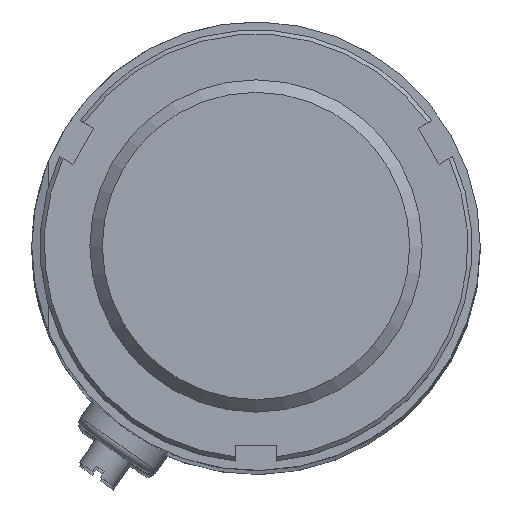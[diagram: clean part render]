
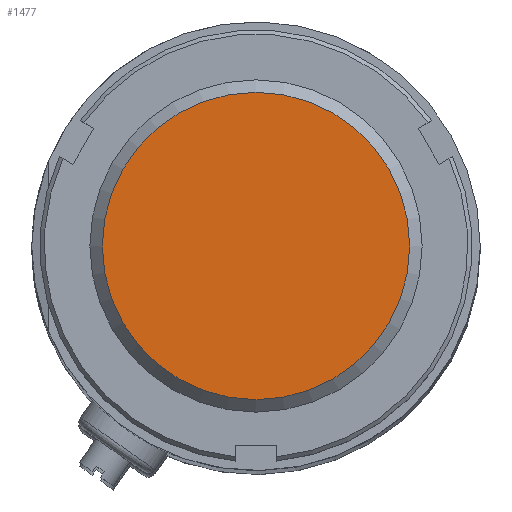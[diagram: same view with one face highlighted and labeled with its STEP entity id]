
A CAD part, top view. The second image highlights one B-rep face of the part: STEP entity #1477.
In plain terms, the highlighted planar face has unit normal (0, 0, 1) as drawn and (-1, 0, 0) by its records, which use the part's own axes.
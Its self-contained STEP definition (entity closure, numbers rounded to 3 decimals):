
#289=PLANE('',#1663);
#441=FACE_OUTER_BOUND('',#596,.T.);
#596=EDGE_LOOP('',(#1256));
#684=CIRCLE('',#1662,18.5);
#796=VERTEX_POINT('',#2572);
#956=EDGE_CURVE('',#796,#796,#684,.T.);
#1256=ORIENTED_EDGE('',*,*,#956,.T.);
#1477=ADVANCED_FACE('',(#441),#289,.T.);
#1662=AXIS2_PLACEMENT_3D('',#2573,#2048,#2049);
#1663=AXIS2_PLACEMENT_3D('',#2574,#2050,#2051);
#2048=DIRECTION('center_axis',(-1.,0.,0.));
#2049=DIRECTION('ref_axis',(0.,0.,1.));
#2050=DIRECTION('center_axis',(-1.,0.,0.));
#2051=DIRECTION('ref_axis',(0.,0.,1.));
#2572=CARTESIAN_POINT('',(-38.,0.,18.5));
#2573=CARTESIAN_POINT('Origin',(-38.,0.,0.));
#2574=CARTESIAN_POINT('Origin',(-38.,0.,0.));
